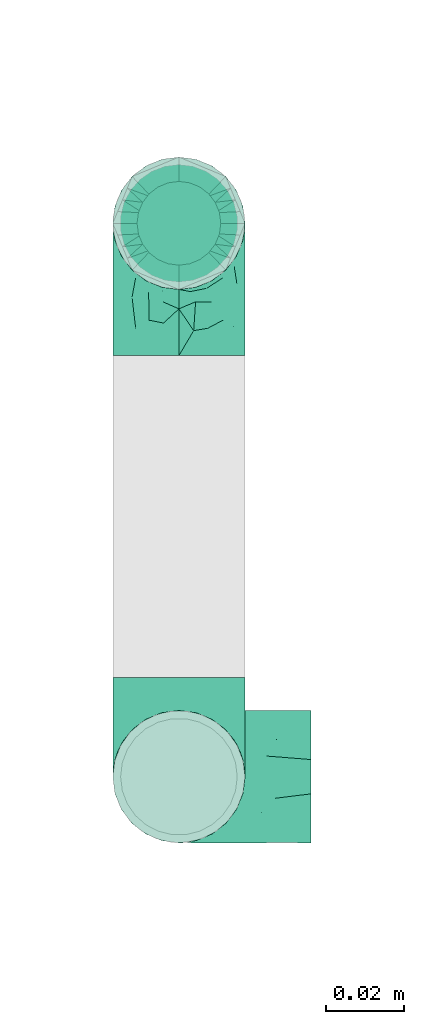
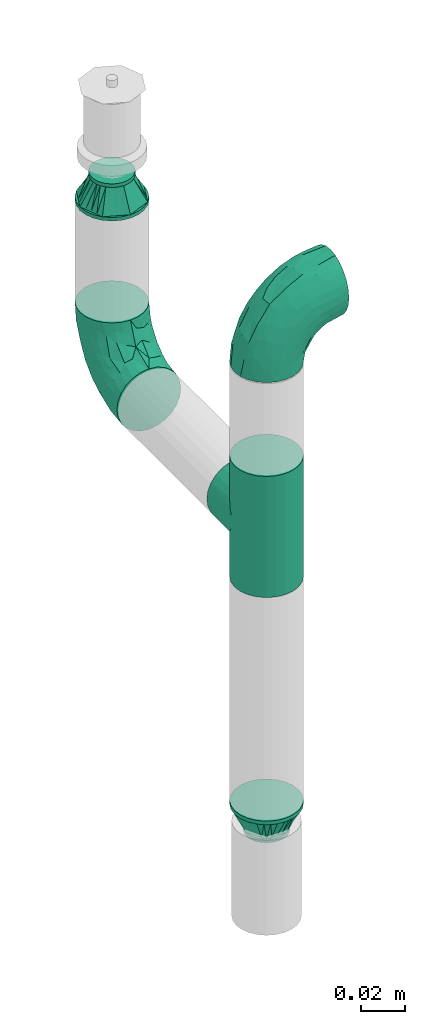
# One storey, part 130 of 157: 5 flow fittings.
"""IFC2X3 building model written with IfcOpenShell, lengths in millimetres."""

from ifc_helpers import new_model, entity, si_unit, converted_unit, derived_unit, direction, frame, origin_with_axes, place, context, subcontext, project, spatial, open_shell, surface_model, source, transform, mapped, type_object, element, save


model = new_model("IFC2X3")

# Units and contexts
model_context = context("Model", 3, precision=0.01, world=frame((0.0, 4.29681676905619e-09, 0.0)), true_north=direction((4.01073788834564e-13, 1.0)))
plan_context = context("Plan", 3, precision=0.01, world=frame((0.0, 4.29681676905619e-09, 0.0)), true_north=direction((4.01073788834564e-13, 1.0)))
body_context = subcontext(model_context, "Body", "Model", "MODEL_VIEW")
ifc_project = project(units=[converted_unit("PLANEANGLEUNIT", "DEGREE", entity("IfcPositiveLengthMeasure", 0.0174532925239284), si_unit("PLANEANGLEUNIT", "RADIAN"), dimensions=[0, 0, 0, 0, 0, 0, 0]), si_unit("AREAUNIT", "SQUARE_METRE"), si_unit("LENGTHUNIT", "METRE", prefix="MILLI"), si_unit("MASSUNIT", "GRAM", prefix="KILO"), si_unit("POWERUNIT", "WATT"), si_unit("PRESSUREUNIT", "PASCAL"), si_unit("FORCEUNIT", "NEWTON", prefix="KILO"), si_unit("ELECTRICCURRENTUNIT", "AMPERE"), si_unit("THERMODYNAMICTEMPERATUREUNIT", "DEGREE_CELSIUS"), si_unit("TIMEUNIT", "SECOND"), si_unit("VOLUMEUNIT", "CUBIC_METRE"), derived_unit("LINEARVELOCITYUNIT", [(si_unit("LENGTHUNIT", "METRE"), 1), (si_unit("TIMEUNIT", "SECOND"), -1)]), derived_unit("VOLUMETRICFLOWRATEUNIT", [(si_unit("VOLUMEUNIT", "CUBIC_METRE"), 1), (si_unit("TIMEUNIT", "SECOND"), -1)]), derived_unit("THERMALTRANSMITTANCEUNIT", [(si_unit("POWERUNIT", "WATT"), 1), (si_unit("THERMODYNAMICTEMPERATUREUNIT", "KELVIN"), -1), (si_unit("AREAUNIT", "SQUARE_METRE"), -1)])], contexts=[model_context, plan_context])

# Site, building, storey
site_placement = place(None, frame((0.0, -4.29681676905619e-09, 0.0), z_axis=(0.0, 0.0, 1.0), x_axis=(1.0, 0.0, 0.0)))
site = spatial("IfcSite", under=ifc_project, at=site_placement, CompositionType="ELEMENT")
building_placement = place(site_placement, frame((0.0, 4.29681676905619e-09, 0.0), z_axis=(0.0, 0.0, 1.0), x_axis=(1.0, 0.0, 0.0)))
building = spatial("IfcBuilding", under=site, at=building_placement, Name="mc-building", CompositionType="ELEMENT")
storey_placement = place(building_placement, frame((0.0, 0.0, 204000.0), z_axis=(0.0, 0.0, 1.0), x_axis=(1.0, 0.0, 0.0)))
storey = spatial("IfcBuildingStorey", under=building, at=storey_placement, Name="Nivå D", CompositionType="ELEMENT", Elevation=204000.0)

# Flow fittings
pipe_fitting_type_1 = type_object("IfcPipeFittingType", Name="magi_pipe_fe_tee_centric_90_NOR", PredefinedType="JUNCTION")
shared_shape_1 = source(origin_with_axes(), body_context, "Body", "SurfaceModel", [
    surface_model("IfcShellBasedSurfaceModel", [(-33.8, 4.37404, -16.32415), (-33.8, 0.0, -16.9), (-33.8, 16.32415, -4.37404), (-33.8, 8.45, -14.63583), (-33.8, 11.9501, -11.9501), (-33.8, 14.63583, -8.45), (-33.8, -16.9, 0.0), (-33.8, -11.9501, -11.9501), (-33.8, -14.63583, -8.45), (-33.8, -8.45, -14.63583), (-33.8, -4.37404, -16.32415), (-33.8, -16.32415, -4.37404), (-33.8, 14.63583, 8.45), (-33.8, 16.32415, 4.37404), (-33.8, -8.45, 14.63583), (-33.8, 8.45, 14.63583), (-33.8, 11.9501, 11.9501), (-33.8, 4.37404, 16.32415), (-33.8, 0.0, 16.9), (-33.8, -11.9501, 11.9501), (-33.8, -14.63583, 8.45), (-33.8, -16.32415, 4.37404), (-33.8, -4.37404, 16.32415), (-33.8, 16.9, 0.0), (33.8, 4.37404, -16.32415), (33.8, -16.9, 0.0), (33.8, 0.0, -16.9), (33.8, 14.63583, -8.45), (33.8, 8.45, -14.63583), (33.8, 16.32415, -4.37404), (33.8, 11.9501, -11.9501), (33.8, -16.32415, 4.37404), (33.8, -8.45, -14.63583), (33.8, -4.37404, -16.32415), (33.8, -11.9501, -11.9501), (33.8, -14.63583, -8.45), (33.8, -16.32415, -4.37404), (33.8, 16.32415, 4.37404), (33.8, 8.45, 14.63583), (33.8, 14.63583, 8.45), (33.8, 11.9501, 11.9501), (33.8, -8.45, 14.63583), (33.8, 4.37404, 16.32415), (33.8, -14.63583, 8.45), (33.8, -11.9501, 11.9501), (33.8, 0.0, 16.9), (33.8, -4.37404, 16.32415), (33.8, 16.9, 0.0), (16.28698, -16.28698, 4.51047), (16.9, -16.9, 0.0), (14.62704, -14.62704, 8.4652), (9.47213, -9.47213, 13.99602), (12.26343, -12.26343, 11.62834), (-16.9, -16.9, 0.0), (-16.28698, -16.28698, 4.51047), (-14.62704, -14.62704, 8.4652), (-12.26343, -12.26343, 11.62834), (-9.47213, -9.47213, 13.99602), (-6.42894, -6.42894, 15.62942), (6.42894, -6.42894, 15.62942), (3.24522, -3.24522, 16.58549), (0.0, 0.0, 16.9), (-3.24522, -3.24522, 16.58549), (3.24522, -3.24522, -16.58549), (0.0, 0.0, -16.9), (-3.24522, -3.24522, -16.58549), (-6.42894, -6.42894, -15.62942), (6.42894, -6.42894, -15.62942), (9.47213, -9.47213, -13.99602), (12.26343, -12.26343, -11.62834), (14.62704, -14.62704, -8.4652), (16.28698, -16.28698, -4.51047), (-9.47213, -9.47213, -13.99602), (-12.26343, -12.26343, -11.62834), (-16.28698, -16.28698, -4.51047), (-14.62704, -14.62704, -8.4652), (4.37404, -25.35, -16.32415), (-16.9, -25.35, 0.0), (0.0, -25.35, -16.9), (14.63583, -25.35, -8.45), (8.45, -25.35, -14.63583), (16.32415, -25.35, -4.37404), (11.9501, -25.35, -11.9501), (-11.9501, -25.35, -11.9501), (-8.45, -25.35, -14.63583), (-4.37404, -25.35, -16.32415), (-14.63583, -25.35, -8.45), (-16.32415, -25.35, -4.37404), (16.9, -25.35, 0.0), (8.45, -25.35, 14.63583), (16.32415, -25.35, 4.37404), (14.63583, -25.35, 8.45), (-8.45, -25.35, 14.63583), (11.9501, -25.35, 11.9501), (4.37404, -25.35, 16.32415), (-16.32415, -25.35, 4.37404), (-11.9501, -25.35, 11.9501), (-14.63583, -25.35, 8.45), (0.0, -25.35, 16.9), (-4.37404, -25.35, 16.32415)], [open_shell([[[0, 1, 2]], [[3, 0, 4]], [[0, 2, 5]], [[4, 0, 5]], [[6, 2, 1]], [[7, 8, 9]], [[1, 10, 9]], [[11, 6, 8]], [[1, 9, 8]], [[1, 8, 6]], [[6, 12, 2]], [[12, 13, 2]], [[14, 12, 6]], [[12, 14, 15]], [[16, 12, 15]], [[17, 15, 18]], [[19, 14, 20]], [[21, 20, 14]], [[22, 18, 14]], [[14, 6, 21]], [[14, 18, 15]], [[23, 2, 13]], [[24, 25, 26]], [[27, 24, 28]], [[27, 29, 24]], [[27, 28, 30]], [[31, 25, 24]], [[26, 32, 33]], [[26, 34, 32]], [[35, 25, 36]], [[35, 34, 26]], [[25, 35, 26]], [[24, 29, 31]], [[29, 37, 38]], [[38, 37, 39]], [[38, 31, 29]], [[38, 39, 40]], [[41, 38, 42]], [[43, 41, 44]], [[41, 43, 31]], [[41, 45, 46]], [[41, 31, 38]], [[42, 45, 41]], [[29, 47, 37]], [[31, 43, 48]], [[25, 31, 49]], [[49, 31, 48]], [[43, 50, 48]], [[44, 41, 51]], [[50, 43, 52]], [[51, 52, 44]], [[52, 43, 44]], [[53, 54, 21]], [[53, 21, 6]], [[21, 54, 20]], [[54, 55, 20]], [[56, 57, 19]], [[19, 20, 56]], [[19, 57, 14]], [[56, 20, 55]], [[14, 57, 58]], [[51, 41, 59]], [[60, 45, 61]], [[59, 46, 60]], [[46, 59, 41]], [[60, 46, 45]], [[61, 45, 42]], [[39, 37, 13]], [[16, 38, 40]], [[12, 40, 39]], [[42, 38, 15]], [[23, 37, 47]], [[62, 61, 18]], [[62, 22, 58]], [[22, 62, 18]], [[58, 22, 14]], [[61, 17, 18]], [[42, 17, 61]], [[15, 17, 42]], [[15, 38, 16]], [[12, 16, 40]], [[13, 12, 39]], [[37, 23, 13]], [[5, 27, 30]], [[23, 47, 29]], [[30, 28, 3]], [[27, 2, 29]], [[26, 33, 63]], [[26, 64, 24]], [[64, 26, 63]], [[28, 24, 0]], [[64, 0, 24]], [[4, 30, 3]], [[2, 27, 5]], [[5, 30, 4]], [[2, 23, 29]], [[65, 66, 10]], [[1, 0, 64]], [[1, 65, 10]], [[66, 9, 10]], [[0, 3, 28]], [[1, 64, 65]], [[63, 33, 67]], [[32, 34, 68]], [[69, 68, 34]], [[35, 70, 69]], [[69, 34, 35]], [[32, 68, 67]], [[36, 25, 49]], [[36, 71, 35]], [[71, 36, 49]], [[35, 71, 70]], [[72, 9, 66]], [[72, 7, 9]], [[7, 72, 73]], [[7, 73, 8]], [[74, 53, 11]], [[75, 74, 8]], [[74, 11, 8]], [[11, 53, 6]], [[75, 8, 73]], [[32, 67, 33]], [[76, 77, 78]], [[79, 76, 80]], [[79, 81, 76]], [[79, 80, 82]], [[77, 76, 81]], [[78, 83, 84]], [[84, 85, 78]], [[86, 77, 87]], [[83, 78, 86]], [[77, 86, 78]], [[81, 88, 77]], [[89, 88, 90]], [[89, 90, 91]], [[92, 77, 89]], [[89, 91, 93]], [[92, 89, 94]], [[95, 96, 97]], [[96, 95, 92]], [[92, 98, 99]], [[95, 77, 92]], [[94, 98, 92]], [[89, 77, 88]], [[77, 95, 53]], [[54, 53, 95]], [[97, 96, 56]], [[96, 92, 57]], [[95, 97, 54]], [[58, 92, 99]], [[55, 54, 97]], [[56, 55, 97]], [[58, 57, 92]], [[98, 61, 62]], [[58, 99, 62]], [[56, 96, 57]], [[62, 99, 98]], [[94, 60, 98]], [[89, 59, 94]], [[91, 90, 48]], [[52, 93, 91]], [[93, 51, 89]], [[49, 90, 88]], [[59, 60, 94]], [[51, 59, 89]], [[49, 48, 90]], [[50, 52, 91]], [[48, 50, 91]], [[51, 93, 52]], [[98, 60, 61]], [[88, 81, 49]], [[71, 49, 81]], [[79, 82, 69]], [[82, 80, 68]], [[81, 79, 71]], [[67, 80, 76]], [[70, 71, 79]], [[69, 70, 79]], [[67, 68, 80]], [[78, 64, 63]], [[67, 76, 63]], [[69, 82, 68]], [[63, 76, 78]], [[85, 65, 78]], [[84, 66, 85]], [[86, 87, 74]], [[86, 73, 83]], [[72, 84, 83]], [[53, 87, 77]], [[66, 65, 85]], [[72, 66, 84]], [[53, 74, 87]], [[75, 73, 86]], [[74, 75, 86]], [[72, 83, 73]], [[78, 65, 64]]])]),
])
flow_fitting_placement = place(storey_placement, frame((518554.95218, 417917.85762, 2570.0), z_axis=(1.0, 0.0, 0.0), x_axis=(0.0, 0.0, 1.0)))
element("IfcFlowFitting", 1, at=flow_fitting_placement, inside=storey, type_object=pipe_fitting_type_1, Name="magi_pipe_fe_tee_centric_90_NOR", context=body_context, shape_type="MappedRepresentation", body=[
    mapped(shared_shape_1, transform((0.0, 0.0, 0.0), scale=1.0)),
])
pipe_fitting_type_2 = type_object("IfcPipeFittingType", Name="magi_pipe_fe_elbow_short_001", PredefinedType="BEND")
shared_shape_2 = source(origin_with_axes(), body_context, "Body", "SurfaceModel", [
    surface_model("IfcShellBasedSurfaceModel", [(-33.8, 8.45, -14.63583), (-33.8, 4.37404, -16.32415), (-33.8, 11.9501, -11.9501), (-33.8, -11.9501, -11.9501), (-33.8, -14.63583, -8.45), (-33.8, -8.45, -14.63583), (-33.8, 0.0, -16.9), (-33.8, -4.37404, -16.32415), (-33.8, -4.37404, 16.32415), (-33.8, 0.0, 16.9), (-33.8, -8.45, 14.63583), (-33.8, 16.32415, -4.37404), (-33.8, 14.63583, -8.45), (-33.8, -16.32415, -4.37404), (-33.8, -16.9, 0.0), (-33.8, -16.32415, 4.37404), (-33.8, 11.9501, 11.9501), (-33.8, 14.63583, 8.45), (-33.8, 16.32415, 4.37404), (-33.8, 4.37404, 16.32415), (-33.8, 8.45, 14.63583), (-33.8, -14.63583, 8.45), (-33.8, -11.9501, 11.9501), (-33.8, 16.9, 0.0), (-11.9501, 33.8, -11.9501), (0.0, 33.8, -16.9), (-4.37404, 33.8, -16.32415), (-8.45, 33.8, -14.63583), (-14.63583, 33.8, -8.45), (-16.32415, 33.8, -4.37404), (14.63583, 33.8, -8.45), (8.45, 33.8, 14.63583), (16.32415, 33.8, -4.37404), (8.45, 33.8, -14.63583), (11.9501, 33.8, -11.9501), (4.37404, 33.8, -16.32415), (16.32415, 33.8, 4.37404), (16.9, 33.8, 0.0), (-11.9501, 33.8, 11.9501), (-16.32415, 33.8, 4.37404), (-14.63583, 33.8, 8.45), (-8.45, 33.8, 14.63583), (-4.37404, 33.8, 16.32415), (11.9501, 33.8, 11.9501), (14.63583, 33.8, 8.45), (0.0, 33.8, 16.9), (4.37404, 33.8, 16.32415), (-16.9, 33.8, 0.0), (-24.79389, -13.12945, 9.48721), (-22.19287, -9.75018, 12.59315), (-24.09897, -14.97035, 0.0), (-14.93934, -10.76256, 8.5297), (-22.46095, -14.75051, 5.27077), (14.75051, 22.46094, 5.27077), (11.9251, 13.23888, 4.33236), (13.04069, 14.39795, 0.0), (7.71387, 13.68847, 11.55891), (9.75018, 22.19287, 12.59315), (4.10169, 13.0571, 14.04018), (-24.84007, -6.39063, 15.2048), (-25.81779, -2.23879, 16.61097), (-23.66549, 2.59054, 16.87119), (-26.50418, 14.06512, 11.08152), (-24.21253, 17.66365, 7.72657), (-29.58514, 15.86957, 7.00283), (-6.17382, -7.5455, 0.0), (-13.23888, -11.9251, 4.33236), (-14.39795, -13.04069, 0.0), (-17.81434, 18.87373, 11.97104), (-6.30846, 29.15138, 15.82987), (-2.31622, 25.28002, 16.85849), (-29.23923, 10.23435, 13.77053), (-1.45439, -2.85688, 7.61475), (-0.28326, 0.34872, 10.09509), (-5.74484, -4.04709, 10.4122), (-4.41137, 11.31918, 16.59407), (-8.39727, 3.10034, 15.7812), (-1.72649, 9.1306, 15.53089), (-17.39909, 24.75344, 7.64977), (-26.19233, 20.0512, 0.0), (-28.14518, 17.29657, 4.25857), (-26.05147, 6.6281, 15.96447), (-5.87354, 16.61944, 16.86968), (-12.51807, 12.51807, 16.48937), (-10.06312, 7.38516, 16.81295), (-3.01882, 3.01882, 13.81718), (-13.0571, -4.10169, 14.04018), (-16.82553, -0.15166, 16.38038), (10.76256, 14.93934, 8.5297), (13.12945, 24.79389, 9.48721), (6.39063, 24.84007, 15.2048), (2.23879, 25.81779, 16.61097), (-13.68847, -7.71387, 11.55891), (14.97035, 24.09897, 0.0), (-7.30894, 22.89991, 16.09489), (-10.67958, 26.17414, 14.008), (-12.78295, 18.26924, 15.06066), (-13.88562, 22.45231, 12.93244), (-18.04944, 15.16501, 14.04434), (-23.11658, 20.08178, 4.02986), (-21.84989, 21.84989, 0.0), (-18.55817, 25.48277, 3.93065), (-13.95142, 26.94732, 11.03289), (-18.57098, 7.23906, 16.59756), (-16.58335, 4.14122, 16.89279), (-17.96666, 11.46709, 15.63151), (-9.84453, 17.54304, 16.18938), (0.15166, 16.82553, 16.38038), (-23.27207, 11.47201, 14.23154), (3.84842, 5.86994, 10.70473), (-8.0212, -7.54413, 7.93275), (1.00345, -2.19508, 4.57414), (5.13203, 3.01004, 5.90201), (5.24161, 1.7543, 2.53265), (8.70457, 7.04947, 3.99182), (-20.0512, 26.19233, 0.0), (8.4852, 8.76699, 7.09296), (-4.55488, -6.72064, 4.90681), (2.05031, -2.05031, 0.0), (7.5455, 6.17382, 0.0), (-26.75399, 2.1369, -16.845), (-14.61995, 24.73803, -11.27736), (-28.45274, -13.45335, -9.81895), (-26.00469, 6.63555, -15.96645), (-23.06726, 20.04573, -4.26202), (-13.80647, -4.26506, -14.17873), (-14.67501, -0.21081, -16.07388), (-6.7902, -0.2828, -13.8478), (-24.53586, 11.08096, -14.13417), (-26.72048, 14.00837, -11.05776), (10.0967, 24.44989, -12.75976), (5.83237, 21.40218, -15.03047), (6.66249, 28.54238, -15.38093), (-20.38182, 15.48705, -12.74596), (12.53268, 21.23441, -9.15363), (12.54494, 15.67504, -5.54878), (9.7522, 12.89279, -8.66343), (-15.65186, 19.64213, -13.01327), (-12.03528, 20.66498, -14.67665), (-15.61907, 15.61906, -14.83879), (-25.56551, -15.26206, 0.0), (-24.65452, -15.12934, -5.50955), (13.45335, 28.45274, -9.81895), (15.12934, 24.65452, -5.50955), (-7.35442, -8.31014, -5.65563), (-15.67504, -12.54494, -5.54878), (-24.44989, -10.0967, -12.75976), (0.16522, 0.41303, -9.71728), (-5.70658, -5.33066, -8.89288), (-5.13869, -2.37198, -11.53565), (-21.23441, -12.53268, -9.15363), (0.71146, 7.93863, -14.09382), (0.21081, 14.67501, -16.07388), (3.49291, 14.42772, -14.76381), (-24.89911, -2.13088, -16.591), (-28.54238, -6.66249, -15.38093), (-18.44386, -7.71663, -13.26957), (2.13088, 24.89911, -16.591), (-28.64342, 17.44413, -2.89318), (1.70017, -1.28722, -5.09504), (-16.57067, 26.81947, -7.36596), (-17.69055, 27.4263, -3.76405), (-12.89279, -9.7522, -8.66343), (-5.96611, 5.96611, -15.95814), (-20.53709, 20.09345, -8.28985), (-2.1369, 26.75399, -16.845), (-6.89872, 24.58781, -16.02578), (-10.60739, 26.53157, -13.98044), (-21.40218, -5.83237, -15.03047), (2.93192, 5.89627, -11.55917), (6.89393, 12.61842, -11.82233), (5.58056, 5.95325, -8.79455), (-3.99512, 18.61798, -16.89635), (8.31014, 7.35442, -5.65563), (-9.1383, 9.86148, -16.89041), (-9.99983, 16.02119, -16.39699), (-16.68576, 9.78031, -16.34199), (-27.01915, 16.61158, -7.12979), (15.26206, 25.56551, 0.0), (-18.61798, 3.99512, -16.89635), (-19.37495, 27.82495, 0.0), (-12.61842, -6.89393, -11.82233), (-18.84705, 19.14018, -10.96545)], [open_shell([[[0, 1, 2]], [[3, 4, 5]], [[6, 7, 5]], [[8, 9, 10]], [[1, 6, 2]], [[11, 12, 2]], [[4, 2, 6]], [[2, 13, 10]], [[5, 4, 6]], [[2, 4, 13]], [[14, 15, 13]], [[11, 2, 16]], [[11, 17, 18]], [[11, 16, 17]], [[19, 20, 16]], [[16, 2, 10]], [[19, 16, 10]], [[21, 22, 15]], [[22, 13, 15]], [[22, 10, 13]], [[10, 9, 19]], [[11, 18, 23]], [[24, 25, 26]], [[24, 26, 27]], [[24, 28, 29]], [[25, 24, 30]], [[31, 32, 24]], [[33, 30, 34]], [[33, 35, 25]], [[25, 30, 33]], [[32, 30, 24]], [[32, 36, 37]], [[38, 24, 29]], [[39, 40, 29]], [[40, 38, 29]], [[38, 41, 42]], [[38, 31, 24]], [[31, 38, 42]], [[36, 43, 44]], [[36, 32, 43]], [[31, 45, 46]], [[32, 31, 43]], [[42, 45, 31]], [[39, 29, 47]], [[22, 48, 49]], [[15, 14, 50]], [[51, 48, 52]], [[53, 54, 55]], [[48, 22, 21]], [[15, 52, 21]], [[56, 57, 58]], [[49, 10, 22]], [[49, 59, 10]], [[9, 60, 61]], [[62, 63, 64]], [[65, 66, 67]], [[57, 43, 31]], [[62, 68, 63]], [[42, 69, 70]], [[20, 71, 16]], [[8, 60, 9]], [[72, 73, 74]], [[75, 76, 77]], [[16, 62, 17]], [[40, 39, 78]], [[79, 23, 80]], [[64, 18, 17]], [[9, 61, 19]], [[19, 81, 20]], [[82, 83, 84]], [[74, 85, 86]], [[59, 86, 87]], [[88, 89, 57]], [[90, 31, 46]], [[44, 53, 36]], [[46, 45, 91]], [[54, 53, 88]], [[44, 89, 53]], [[92, 86, 49]], [[89, 44, 43]], [[10, 59, 8]], [[53, 55, 93]], [[93, 36, 53]], [[66, 52, 67]], [[94, 82, 70]], [[95, 96, 94]], [[97, 98, 96]], [[79, 99, 100]], [[41, 38, 95]], [[101, 100, 99]], [[68, 78, 63]], [[42, 41, 69]], [[23, 18, 80]], [[95, 94, 69]], [[78, 101, 99]], [[38, 102, 95]], [[70, 45, 42]], [[97, 95, 102]], [[15, 50, 52]], [[90, 57, 31]], [[57, 90, 58]], [[81, 19, 61]], [[103, 104, 84]], [[105, 81, 103]], [[38, 40, 102]], [[106, 96, 83]], [[94, 106, 82]], [[91, 70, 107]], [[71, 62, 16]], [[62, 108, 98]], [[86, 59, 49]], [[67, 52, 50]], [[60, 59, 87]], [[92, 49, 51]], [[86, 85, 76]], [[91, 90, 46]], [[37, 36, 93]], [[107, 77, 58]], [[107, 58, 90]], [[58, 85, 109]], [[110, 74, 92]], [[72, 74, 110]], [[66, 51, 52]], [[72, 111, 112]], [[113, 114, 112]], [[56, 88, 57]], [[52, 48, 21]], [[49, 48, 51]], [[57, 89, 43]], [[53, 89, 88]], [[103, 81, 61]], [[71, 81, 108]], [[18, 64, 80]], [[63, 78, 99]], [[47, 115, 101]], [[101, 115, 100]], [[40, 78, 102]], [[68, 102, 78]], [[97, 96, 95]], [[105, 98, 108]], [[103, 84, 83]], [[107, 70, 82]], [[76, 84, 87]], [[82, 84, 75]], [[70, 91, 45]], [[90, 91, 107]], [[59, 60, 8]], [[61, 60, 87]], [[73, 85, 74]], [[109, 112, 116]], [[103, 61, 104]], [[105, 103, 83]], [[96, 105, 83]], [[81, 105, 108]], [[96, 98, 105]], [[62, 98, 68]], [[61, 87, 104]], [[87, 84, 104]], [[86, 76, 87]], [[77, 76, 85]], [[58, 77, 85]], [[75, 77, 107]], [[82, 75, 107]], [[76, 75, 84]], [[81, 71, 20]], [[62, 71, 108]], [[95, 69, 41]], [[70, 69, 94]], [[62, 64, 17]], [[80, 63, 99]], [[63, 80, 64]], [[80, 99, 79]], [[66, 65, 117]], [[110, 66, 117]], [[112, 114, 116]], [[118, 117, 65]], [[110, 92, 51]], [[112, 111, 113]], [[119, 55, 54]], [[74, 86, 92]], [[58, 109, 56]], [[116, 56, 109]], [[66, 110, 51]], [[72, 110, 117]], [[111, 72, 117]], [[73, 112, 109]], [[117, 118, 111]], [[113, 111, 118]], [[118, 119, 113]], [[114, 119, 54]], [[119, 114, 113]], [[116, 54, 88]], [[54, 116, 114]], [[116, 88, 56]], [[112, 73, 72]], [[85, 73, 109]], [[78, 39, 101]], [[47, 101, 39]], [[102, 68, 97]], [[97, 68, 98]], [[82, 106, 83]], [[94, 96, 106]], [[1, 120, 6]], [[28, 24, 121]], [[3, 122, 4]], [[0, 123, 1]], [[100, 124, 79]], [[125, 126, 127]], [[128, 2, 129]], [[130, 131, 132]], [[128, 129, 133]], [[134, 135, 136]], [[137, 138, 139]], [[128, 0, 2]], [[67, 140, 141]], [[134, 142, 143]], [[141, 13, 4]], [[144, 65, 145]], [[146, 3, 5]], [[147, 148, 149]], [[145, 141, 150]], [[151, 152, 153]], [[154, 7, 6]], [[5, 155, 146]], [[150, 146, 156]], [[155, 5, 7]], [[143, 135, 134]], [[35, 157, 25]], [[23, 79, 158]], [[148, 159, 144]], [[160, 161, 29]], [[145, 162, 144]], [[163, 152, 151]], [[29, 28, 160]], [[121, 164, 160]], [[33, 34, 130]], [[25, 165, 26]], [[26, 165, 166]], [[142, 34, 30]], [[24, 27, 167]], [[124, 161, 164]], [[157, 35, 132]], [[155, 154, 168]], [[123, 0, 128]], [[169, 170, 171]], [[172, 157, 152]], [[26, 166, 27]], [[132, 35, 33]], [[142, 130, 34]], [[168, 154, 126]], [[136, 135, 173]], [[133, 137, 139]], [[2, 12, 129]], [[170, 131, 130]], [[30, 32, 143]], [[172, 174, 175]], [[176, 123, 128]], [[158, 177, 11]], [[135, 55, 119]], [[167, 27, 166]], [[175, 166, 172]], [[137, 167, 138]], [[122, 141, 4]], [[140, 14, 13]], [[32, 37, 178]], [[170, 130, 134]], [[152, 157, 131]], [[165, 157, 172]], [[153, 170, 151]], [[152, 163, 174]], [[168, 125, 156]], [[122, 146, 150]], [[120, 154, 6]], [[179, 174, 126]], [[179, 126, 154]], [[126, 163, 127]], [[162, 145, 150]], [[140, 13, 141]], [[32, 178, 143]], [[55, 143, 178]], [[177, 129, 12]], [[128, 133, 139]], [[176, 128, 139]], [[120, 123, 179]], [[121, 160, 28]], [[161, 100, 180]], [[166, 175, 138]], [[121, 24, 167]], [[161, 47, 29]], [[79, 124, 158]], [[124, 164, 177]], [[161, 124, 100]], [[136, 171, 170]], [[127, 163, 151]], [[147, 171, 159]], [[148, 144, 162]], [[127, 151, 169]], [[127, 181, 125]], [[129, 177, 164]], [[12, 11, 177]], [[159, 65, 144]], [[67, 141, 145]], [[143, 55, 135]], [[135, 119, 173]], [[123, 120, 1]], [[154, 120, 179]], [[157, 165, 25]], [[166, 165, 172]], [[172, 152, 174]], [[176, 139, 175]], [[126, 174, 163]], [[176, 174, 179]], [[174, 176, 175]], [[123, 176, 179]], [[150, 181, 162]], [[127, 149, 181]], [[181, 148, 162]], [[159, 148, 147]], [[171, 136, 173]], [[170, 134, 136]], [[159, 171, 173]], [[171, 147, 169]], [[169, 147, 149]], [[151, 170, 169]], [[164, 182, 129]], [[182, 121, 137]], [[181, 149, 148]], [[169, 149, 127]], [[182, 137, 133]], [[167, 137, 121]], [[166, 138, 167]], [[175, 139, 138]], [[129, 182, 133]], [[121, 182, 164]], [[161, 160, 164]], [[47, 161, 180]], [[177, 158, 124]], [[23, 158, 11]], [[130, 132, 33]], [[157, 132, 131]], [[143, 142, 30]], [[130, 142, 134]], [[154, 155, 7]], [[146, 155, 168]], [[146, 122, 3]], [[141, 122, 150]], [[152, 131, 153]], [[159, 119, 118]], [[67, 145, 65]], [[170, 153, 131]], [[119, 159, 173]], [[159, 118, 65]], [[156, 125, 181]], [[126, 125, 168]], [[150, 156, 181]], [[168, 156, 146]]])]),
])
for number, where, z_axis, x_axis, name in (
    (2, (518554.95218, 417917.85762, 2690.0), (0.0, 1.0, 0.0), (0.0, 0.0, 1.0), "magi_pipe_fe_elbow_short_001"),
    (3, (518554.95218, 418059.2201, 2570.0), (-1.0, 0.0, 0.0), (0.0, 0.0, -1.0), "magi_pipe_fe_elbow_short_001"),
):
    element("IfcFlowFitting", number, at=place(storey_placement, frame(where, z_axis=z_axis, x_axis=x_axis)), inside=storey, type_object=pipe_fitting_type_2, Name=name, context=body_context, shape_type="MappedRepresentation", body=[
        mapped(shared_shape_2, transform((0.0, 0.0, 0.0), scale=1.0)),
    ])
pipe_fitting_type_3 = type_object("IfcPipeFittingType", Name="magi_pipe_fe_reducer_centric_short_NOR", PredefinedType="TRANSITION")
shared_shape_3 = source(origin_with_axes(), body_context, "Body", "SurfaceModel", [
    surface_model("IfcShellBasedSurfaceModel", [(-2.0, -7.56604, -7.56604), (-2.0, -10.33541, -2.76936), (-2.0, -5.35, -9.26647), (-2.0, 5.35, -9.26647), (-2.0, 10.33541, -2.76936), (-2.0, 7.56604, -7.56604), (12.4, 11.9501, 11.9501), (12.4, 0.0, 16.9), (12.4, 11.9501, -11.9501), (12.4, 16.9, 0.0), (0.0, -10.7, 0.0), (0.0, -5.35, 9.26647), (0.0, -5.35, -9.26647), (0.0, 10.7, 0.0), (12.4, 15.66253, -2.98753), (12.4, 8.96258, -13.18758), (0.0, 6.6875, -6.94985), (12.4, -15.66253, -2.98753), (12.4, -16.9, 0.0), (12.4, 5.97505, -14.42505), (0.0, 5.35, -9.26647), (12.4, 14.42505, -5.97505), (0.0, 8.025, -4.63324), (0.0, 9.3625, -2.31662), (0.0, -9.3625, -2.31662), (0.0, -8.025, -4.63324), (12.4, -14.42505, -5.97505), (12.4, 13.18758, -8.96258), (12.4, -13.18758, -8.96258), (12.4, -11.9501, -11.9501), (0.0, -6.6875, -6.94985), (12.4, -8.96258, -13.18758), (12.4, -5.97505, -14.42505), (12.4, -15.66253, 2.98753), (12.4, -8.96258, 13.18758), (0.0, -6.6875, 6.94985), (12.4, -11.9501, 11.9501), (12.4, 15.66253, 2.98753), (12.4, -5.97505, 14.42505), (12.4, -14.42505, 5.97505), (0.0, -8.025, 4.63324), (0.0, -9.3625, 2.31662), (0.0, 9.3625, 2.31662), (0.0, 8.025, 4.63324), (12.4, 14.42505, 5.97505), (12.4, -13.18758, 8.96258), (12.4, 13.18758, 8.96258), (0.0, 6.6875, 6.94985), (12.4, 8.96258, 13.18758), (0.0, 5.35, 9.26647), (12.4, 5.97505, 14.42505), (14.4, 4.37404, -16.32415), (14.4, 8.45, -14.63583), (14.4, 11.9501, -11.9501), (14.4, -8.45, -14.63583), (14.4, 16.32415, -4.37404), (14.4, 16.32415, 4.37404), (14.4, 14.63583, -8.45), (14.4, 0.0, -16.9), (14.4, -4.37404, -16.32415), (14.4, -11.9501, -11.9501), (14.4, -16.32415, -4.37404), (14.4, -14.63583, -8.45), (14.4, -16.32415, 4.37404), (14.4, 16.9, 0.0), (14.4, 14.63583, 8.45), (14.4, 11.9501, 11.9501), (14.4, 4.37404, 16.32415), (14.4, 8.45, 14.63583), (14.4, 0.0, 16.9), (14.4, -14.63583, 8.45), (14.4, -16.9, 0.0), (14.4, -8.45, 14.63583), (14.4, -11.9501, 11.9501), (14.4, -4.37404, 16.32415), (12.4, 4.37404, 16.32415), (12.4, -14.63583, 8.45), (12.4, 16.32415, 4.37404), (12.4, 8.45, 14.63583), (12.4, 14.63583, 8.45), (12.4, -8.45, 14.63583), (12.4, -4.37404, 16.32415), (12.4, -16.32415, 4.37404), (12.4, -16.32415, -4.37404), (12.4, -8.45, -14.63583), (12.4, 16.32415, -4.37404), (12.4, 14.63583, -8.45), (12.4, 8.45, -14.63583), (12.4, 4.37404, -16.32415), (12.4, 0.0, -16.9), (12.4, -14.63583, -8.45), (12.4, -4.37404, -16.32415), (-2.0, 2.76936, 10.33541), (-2.0, 0.0, 10.7), (-2.0, 5.35, 9.26647), (-2.0, 7.56604, 7.56604), (-2.0, 9.26647, 5.35), (-2.0, 10.33541, 2.76936), (-2.0, -10.33541, 2.76936), (-2.0, -2.76936, 10.33541), (-2.0, -7.56604, 7.56604), (-2.0, -5.35, 9.26647), (-2.0, -9.26647, 5.35), (-2.0, -10.7, 0.0), (-2.0, 9.26647, -5.35), (-2.0, 2.76936, -10.33541), (-2.0, -9.26647, -5.35), (-2.0, 0.0, -10.7), (-2.0, -2.76936, -10.33541), (-2.0, 10.7, 0.0), (0.0, 0.0, -10.7), (0.0, 2.76936, -10.33541), (0.0, 10.33541, -2.76936), (0.0, 7.56604, -7.56604), (0.0, -10.33541, -2.76936), (0.0, 9.26647, -5.35), (0.0, 0.0, 10.7), (0.0, -2.76936, -10.33541), (0.0, -7.56604, -7.56604), (0.0, -9.26647, -5.35), (0.0, 10.33541, 2.76936), (0.0, 9.26647, 5.35), (0.0, 7.56604, 7.56604), (0.0, 2.76936, 10.33541), (0.0, -7.56604, 7.56604), (0.0, -10.33541, 2.76936), (0.0, -9.26647, 5.35), (0.0, -2.76936, 10.33541), (0.0, 2.675, -9.26647), (0.0, -2.675, -9.26647), (12.4, 2.98753, -15.66253), (0.0, 0.0, -9.26647), (12.4, -2.98753, -15.66253), (0.0, -2.675, 9.26647), (0.0, 2.675, 9.26647), (12.4, -2.98753, 15.66253), (0.0, 0.0, 9.26647), (12.4, 2.98753, 15.66253)], [open_shell([[[0, 1, 2]], [[3, 4, 5]], [[6, 7, 8]], [[8, 9, 6]], [[10, 11, 12]], [[13, 9, 14]], [[15, 16, 8]], [[17, 18, 10]], [[15, 19, 20]], [[21, 22, 23]], [[24, 25, 26]], [[22, 21, 27]], [[28, 26, 25]], [[29, 30, 31]], [[12, 32, 31]], [[10, 18, 33]], [[34, 35, 36]], [[37, 9, 13]], [[34, 38, 11]], [[39, 40, 41]], [[42, 43, 44]], [[40, 39, 45]], [[46, 44, 43]], [[6, 47, 48]], [[49, 50, 48]], [[51, 52, 53]], [[54, 51, 53]], [[53, 55, 56]], [[55, 53, 57]], [[53, 56, 54]], [[58, 54, 59]], [[58, 51, 54]], [[60, 61, 62]], [[61, 60, 54]], [[54, 63, 61]], [[56, 55, 64]], [[56, 65, 66]], [[56, 66, 67]], [[67, 63, 54]], [[67, 66, 68]], [[63, 67, 69]], [[69, 70, 63]], [[71, 61, 63]], [[70, 72, 73]], [[70, 69, 72]], [[72, 69, 74]], [[54, 56, 67]], [[75, 76, 7]], [[77, 75, 78]], [[6, 79, 77]], [[6, 77, 78]], [[76, 75, 77]], [[80, 76, 36]], [[80, 81, 7]], [[7, 76, 80]], [[82, 76, 77]], [[82, 83, 18]], [[82, 77, 84]], [[77, 85, 8]], [[8, 85, 86]], [[8, 87, 88]], [[84, 77, 8]], [[88, 89, 8]], [[83, 29, 90]], [[29, 83, 84]], [[84, 89, 91]], [[83, 82, 84]], [[8, 89, 84]], [[85, 77, 9]], [[83, 61, 18]], [[90, 62, 83]], [[54, 29, 84]], [[90, 29, 60]], [[59, 84, 91]], [[83, 62, 61]], [[61, 71, 18]], [[59, 54, 84]], [[60, 29, 54]], [[60, 62, 90]], [[58, 59, 91]], [[91, 89, 58]], [[88, 51, 89]], [[87, 52, 88]], [[57, 8, 86]], [[87, 8, 53]], [[55, 86, 85]], [[87, 53, 52]], [[52, 51, 88]], [[64, 55, 85]], [[57, 86, 55]], [[57, 53, 8]], [[9, 64, 85]], [[89, 51, 58]], [[77, 56, 9]], [[79, 65, 77]], [[68, 6, 78]], [[79, 6, 66]], [[67, 78, 75]], [[77, 65, 56]], [[56, 64, 9]], [[67, 68, 78]], [[66, 6, 68]], [[66, 65, 79]], [[69, 67, 75]], [[75, 7, 69]], [[81, 74, 7]], [[80, 72, 81]], [[70, 36, 76]], [[80, 36, 73]], [[63, 76, 82]], [[80, 73, 72]], [[72, 74, 81]], [[71, 63, 82]], [[70, 76, 63]], [[70, 73, 36]], [[18, 71, 82]], [[7, 74, 69]], [[92, 1, 93]], [[94, 1, 92]], [[95, 96, 97]], [[95, 97, 94]], [[98, 93, 1]], [[99, 100, 101]], [[99, 93, 100]], [[100, 98, 102]], [[93, 98, 100]], [[98, 1, 103]], [[94, 97, 1]], [[1, 97, 4]], [[5, 4, 104]], [[4, 3, 1]], [[105, 1, 3]], [[1, 0, 106]], [[2, 107, 108]], [[2, 1, 105]], [[105, 107, 2]], [[4, 97, 109]], [[20, 110, 111]], [[112, 20, 113]], [[114, 20, 112]], [[112, 113, 115]], [[116, 114, 112]], [[110, 12, 117]], [[110, 20, 12]], [[118, 114, 119]], [[114, 118, 12]], [[20, 114, 12]], [[112, 13, 120]], [[120, 121, 122]], [[120, 122, 123]], [[116, 112, 123]], [[123, 122, 49]], [[116, 124, 114]], [[125, 124, 126]], [[10, 114, 125]], [[124, 127, 11]], [[125, 114, 124]], [[127, 124, 116]], [[123, 112, 120]], [[1, 114, 103]], [[106, 119, 1]], [[12, 0, 2]], [[106, 0, 118]], [[117, 2, 108]], [[1, 119, 114]], [[114, 10, 103]], [[117, 12, 2]], [[118, 0, 12]], [[118, 119, 106]], [[110, 117, 108]], [[108, 107, 110]], [[105, 111, 107]], [[3, 20, 105]], [[115, 5, 104]], [[3, 5, 113]], [[112, 104, 4]], [[3, 113, 20]], [[20, 111, 105]], [[13, 112, 4]], [[115, 104, 112]], [[115, 113, 5]], [[109, 13, 4]], [[107, 111, 110]], [[97, 120, 109]], [[96, 121, 97]], [[49, 95, 94]], [[96, 95, 122]], [[123, 94, 92]], [[97, 121, 120]], [[120, 13, 109]], [[123, 49, 94]], [[122, 95, 49]], [[122, 121, 96]], [[116, 123, 92]], [[92, 93, 116]], [[99, 127, 93]], [[101, 11, 99]], [[126, 100, 102]], [[101, 100, 124]], [[125, 102, 98]], [[101, 124, 11]], [[11, 127, 99]], [[10, 125, 98]], [[126, 102, 125]], [[126, 124, 100]], [[103, 10, 98]], [[93, 127, 116]], [[18, 7, 36]], [[18, 29, 8]], [[89, 8, 29]], [[18, 8, 7]], [[13, 11, 49]], [[13, 20, 12]], [[13, 12, 11]], [[24, 26, 17]], [[10, 24, 17]], [[16, 15, 20]], [[30, 12, 31]], [[23, 14, 21]], [[19, 128, 20]], [[27, 8, 16]], [[32, 12, 129]], [[30, 28, 25]], [[130, 131, 128]], [[129, 132, 32]], [[16, 22, 27]], [[13, 14, 23]], [[128, 19, 130]], [[130, 89, 131]], [[131, 132, 129]], [[89, 132, 131]], [[28, 30, 29]], [[42, 44, 37]], [[13, 42, 37]], [[35, 34, 11]], [[47, 49, 48]], [[41, 33, 39]], [[38, 133, 11]], [[45, 36, 35]], [[50, 49, 134]], [[47, 46, 43]], [[135, 136, 133]], [[134, 137, 50]], [[35, 40, 45]], [[10, 33, 41]], [[133, 38, 135]], [[135, 7, 136]], [[136, 137, 134]], [[7, 137, 136]], [[46, 47, 6]]])]),
])
for number, where, z_axis, x_axis, name in (
    (4, (518554.95218, 417917.85762, 2396.95199999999), (0.0, 1.0, 0.0), (0.0, 0.0, 1.0), "magi_pipe_fe_reducer_centric_short_NOR"),
    (5, (518554.95218, 418059.2201, 2675.04800000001), (1.0, 0.0, 0.0), (0.0, 0.0, -1.0), "magi_pipe_fe_reducer_centric_short_NOR"),
):
    element("IfcFlowFitting", number, at=place(storey_placement, frame(where, z_axis=z_axis, x_axis=x_axis)), inside=storey, type_object=pipe_fitting_type_3, Name=name, context=body_context, shape_type="MappedRepresentation", body=[
        mapped(shared_shape_3, transform((0.0, 0.0, 0.0), scale=1.0)),
    ])

save(model, "model.ifc")
